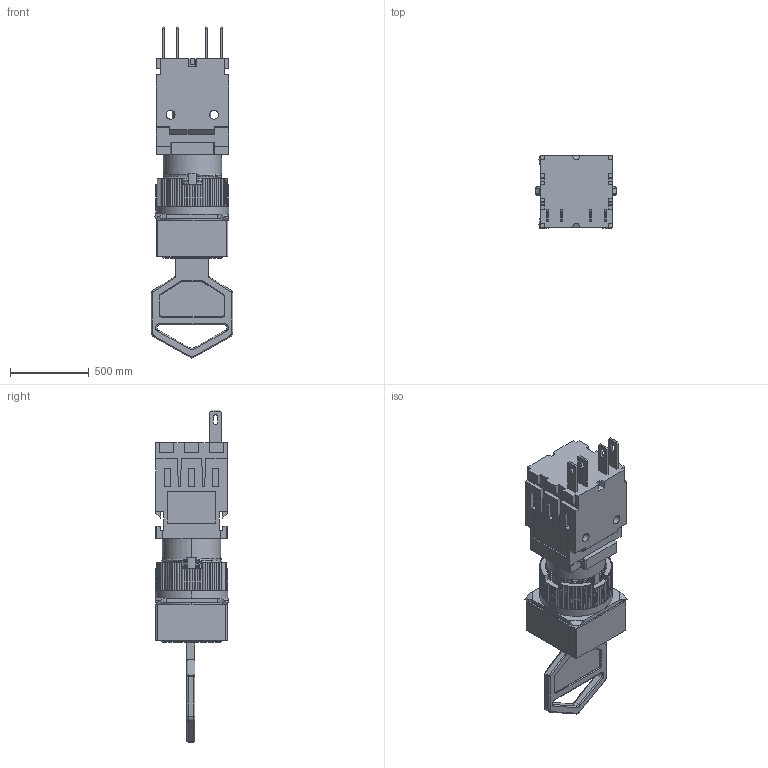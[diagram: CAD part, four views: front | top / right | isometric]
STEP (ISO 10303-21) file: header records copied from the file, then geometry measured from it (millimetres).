
FILE_DESCRIPTION((''),'2;1');
FILE_NAME('ASM0006_ASM','2016-06-12T',('Administrator'),(''),'PRO/ENGINEER BY PARAMETRIC TECHNOLOGY CORPORATION, 2012360','PRO/ENGINEER BY PARAMETRIC TECHNOLOGY CORPORATION, 2012360','');
FILE_SCHEMA(('CONFIG_CONTROL_DESIGN'));
Length unit declared in the file: inch
Products named in the file (1): ASM0006_ASM
Bounding box: 518.19 x 468.06 x 2105.96 mm (x, y, z)
Volume: 228960914.4 mm3; surface area: 4887349.5 mm2
Topology: 1 solids, 5 shells, 1001 faces, 2699 edges, 1716 vertices
Faces by surface type: plane 491, cylinder 391, bspline 97, torus 12, cone 6, sphere 4
Entity records: 42987 total; most frequent: CARTESIAN_POINT 18591, ORIENTED_EDGE 5398, DIRECTION 4686, EDGE_CURVE 2699, VERTEX_POINT 1716, AXIS2_PLACEMENT_3D 1612, VECTOR 1462, LINE 1462
